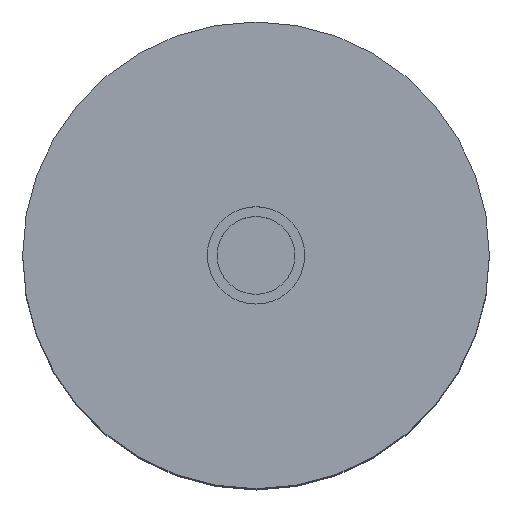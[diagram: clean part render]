
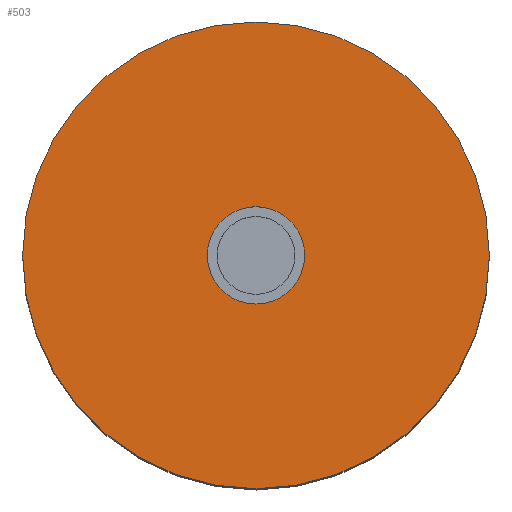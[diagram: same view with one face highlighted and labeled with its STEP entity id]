
A CAD part, top view. The second image highlights one B-rep face of the part: STEP entity #503.
In plain terms, the highlighted planar face has unit normal (0, 0, 1).
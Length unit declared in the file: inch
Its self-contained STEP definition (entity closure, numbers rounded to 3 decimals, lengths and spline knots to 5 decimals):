
#32=FACE_BOUND('',#118,.T.);
#45=PLANE('',#573);
#69=FACE_OUTER_BOUND('',#117,.T.);
#117=EDGE_LOOP('',(#396));
#118=EDGE_LOOP('',(#397));
#167=CIRCLE('',#572,3.10039);
#168=CIRCLE('',#574,0.64643);
#261=VERTEX_POINT('',#926);
#262=VERTEX_POINT('',#930);
#313=EDGE_CURVE('',#261,#261,#167,.T.);
#314=EDGE_CURVE('',#262,#262,#168,.T.);
#396=ORIENTED_EDGE('',*,*,#313,.T.);
#397=ORIENTED_EDGE('',*,*,#314,.F.);
#503=ADVANCED_FACE('',(#69,#32),#45,.T.);
#572=AXIS2_PLACEMENT_3D('',#928,#683,#684);
#573=AXIS2_PLACEMENT_3D('',#929,#685,#686);
#574=AXIS2_PLACEMENT_3D('',#931,#687,#688);
#683=DIRECTION('center_axis',(0.,0.,1.));
#684=DIRECTION('ref_axis',(1.,0.,0.));
#685=DIRECTION('center_axis',(0.,0.,1.));
#686=DIRECTION('ref_axis',(1.,0.,0.));
#687=DIRECTION('center_axis',(0.,0.,1.));
#688=DIRECTION('ref_axis',(1.,0.,0.));
#926=CARTESIAN_POINT('',(3.10061,-0.00571,6.52998));
#928=CARTESIAN_POINT('Origin',(0.00022,-0.00571,
6.52998));
#929=CARTESIAN_POINT('Origin',(0.00022,-0.00571,
6.52998));
#930=CARTESIAN_POINT('',(-0.64621,-0.00571,6.52998));
#931=CARTESIAN_POINT('Origin',(0.00022,-0.00571,
6.52998));
